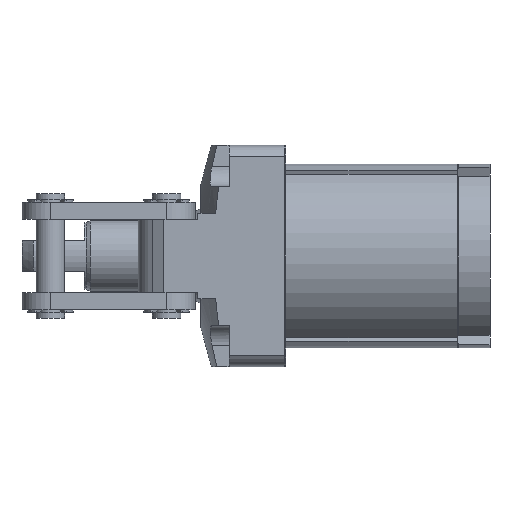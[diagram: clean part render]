
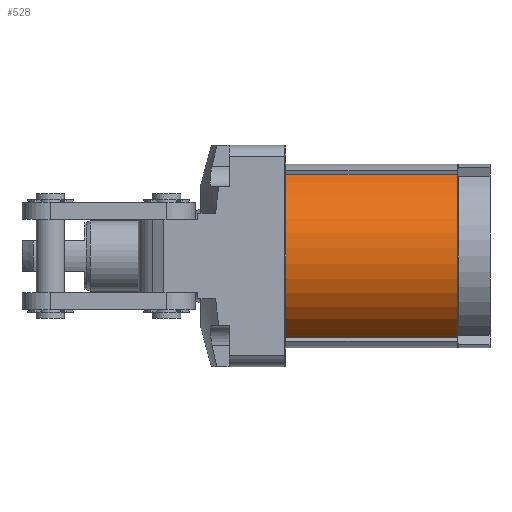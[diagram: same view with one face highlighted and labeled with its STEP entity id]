
A CAD part, left-side view. The second image highlights one B-rep face of the part: STEP entity #528.
In plain terms, the highlighted cylindrical face has radius 32.5 mm (diameter 65 mm), a partial arc.
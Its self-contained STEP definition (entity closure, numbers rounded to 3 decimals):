
#528 = ADVANCED_FACE( '', ( #1099 ), #1100, .T. );
#1099 = FACE_OUTER_BOUND( '', #1950, .T. );
#1100 = CYLINDRICAL_SURFACE( '', #1951, 32.5 );
#1950 = EDGE_LOOP( '', ( #3677, #3678, #3679, #3680 ) );
#1951 = AXIS2_PLACEMENT_3D( '', #3681, #3682, #3683 );
#3677 = ORIENTED_EDGE( '', *, *, #5943, .F. );
#3678 = ORIENTED_EDGE( '', *, *, #5921, .F. );
#3679 = ORIENTED_EDGE( '', *, *, #5944, .T. );
#3680 = ORIENTED_EDGE( '', *, *, #5751, .T. );
#3681 = CARTESIAN_POINT( '', ( 0., -60.5, 0. ) );
#3682 = DIRECTION( '', ( 0., -1., 0. ) );
#3683 = DIRECTION( '', ( 1., 0., 0. ) );
#5751 = EDGE_CURVE( '', #6893, #6891, #6894, .T. );
#5921 = EDGE_CURVE( '', #7189, #7191, #7192, .T. );
#5943 = EDGE_CURVE( '', #7191, #6891, #7230, .T. );
#5944 = EDGE_CURVE( '', #7189, #6893, #7231, .T. );
#6891 = VERTEX_POINT( '', #9075 );
#6893 = VERTEX_POINT( '', #9078 );
#6894 = CIRCLE( '', #9079, 32.5 );
#7189 = VERTEX_POINT( '', #9484 );
#7191 = VERTEX_POINT( '', #9487 );
#7192 = CIRCLE( '', #9488, 32.5 );
#7230 = LINE( '', #9542, #9543 );
#7231 = LINE( '', #9544, #9545 );
#9075 = CARTESIAN_POINT( '', ( -15.169, 0., -28.743 ) );
#9078 = CARTESIAN_POINT( '', ( -15.169, 0., 28.743 ) );
#9079 = AXIS2_PLACEMENT_3D( '', #11046, #11047, #11048 );
#9484 = CARTESIAN_POINT( '', ( -15.169, -60.5, 28.743 ) );
#9487 = CARTESIAN_POINT( '', ( -15.169, -60.5, -28.743 ) );
#9488 = AXIS2_PLACEMENT_3D( '', #11334, #11335, #11336 );
#9542 = CARTESIAN_POINT( '', ( -15.169, -60.5, -28.743 ) );
#9543 = VECTOR( '', #11368, 1000. );
#9544 = CARTESIAN_POINT( '', ( -15.169, -110.047, 28.743 ) );
#9545 = VECTOR( '', #11369, 1000. );
#11046 = CARTESIAN_POINT( '', ( 0., 0., 0. ) );
#11047 = DIRECTION( '', ( 0., -1., 0. ) );
#11048 = DIRECTION( '', ( 0., 0., -1. ) );
#11334 = CARTESIAN_POINT( '', ( 0., -60.5, 0. ) );
#11335 = DIRECTION( '', ( 0., -1., 0. ) );
#11336 = DIRECTION( '', ( 0., 0., -1. ) );
#11368 = DIRECTION( '', ( 0., 1., 0. ) );
#11369 = DIRECTION( '', ( 0., 1., 0. ) );
